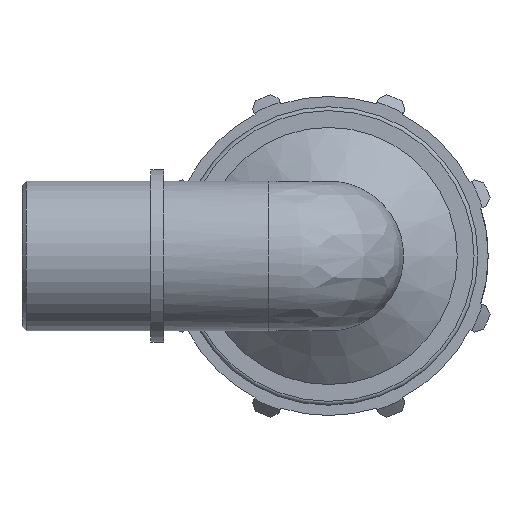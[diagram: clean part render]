
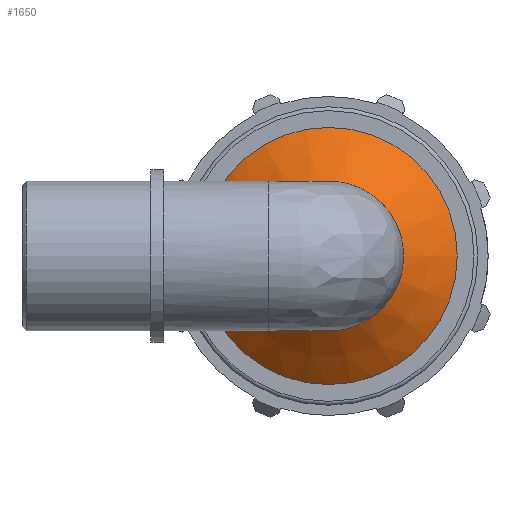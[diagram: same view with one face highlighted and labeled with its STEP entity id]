
A CAD part, left-side view. The second image highlights one B-rep face of the part: STEP entity #1650.
In plain terms, the highlighted conical face has half-angle 50 degrees and reference radius 14.24 mm.
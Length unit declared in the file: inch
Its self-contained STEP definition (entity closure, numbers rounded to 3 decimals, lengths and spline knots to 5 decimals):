
#96=CONICAL_SURFACE('',#1766,0.56063,0.873);
#112=LINE('',#2500,#223);
#223=VECTOR('',#1976,0.56063);
#333=B_SPLINE_CURVE_WITH_KNOTS('',3,(#2448,#2449,#2450,#2451,#2452,#2453,
#2454,#2455),.UNSPECIFIED.,.F.,.F.,(4,2,2,4),(3.95231,3.96982,
4.14407,4.31832),.UNSPECIFIED.);
#334=B_SPLINE_CURVE_WITH_KNOTS('',3,(#2459,#2460,#2461,#2462,#2463,#2464,
#2465,#2466),.UNSPECIFIED.,.F.,.F.,(4,2,2,4),(4.31832,4.49257,
4.66682,4.68434),.UNSPECIFIED.);
#343=FACE_OUTER_BOUND('',#429,.T.);
#429=EDGE_LOOP('',(#1059,#1060,#1061,#1062,#1063,#1064,#1065,#1066));
#522=CIRCLE('',#1753,0.4125);
#524=CIRCLE('',#1757,0.4125);
#531=CIRCLE('',#1767,0.70875);
#532=CIRCLE('',#1768,0.70875);
#622=VERTEX_POINT('',#2428);
#623=VERTEX_POINT('',#2429);
#626=VERTEX_POINT('',#2435);
#630=VERTEX_POINT('',#2447);
#632=VERTEX_POINT('',#2496);
#633=VERTEX_POINT('',#2497);
#792=EDGE_CURVE('',#622,#623,#522,.T.);
#796=EDGE_CURVE('',#623,#626,#524,.T.);
#801=EDGE_CURVE('',#622,#630,#333,.T.);
#804=EDGE_CURVE('',#630,#626,#334,.T.);
#806=EDGE_CURVE('',#632,#633,#531,.T.);
#807=EDGE_CURVE('',#633,#632,#532,.T.);
#808=EDGE_CURVE('',#633,#623,#112,.T.);
#1059=ORIENTED_EDGE('',*,*,#806,.F.);
#1060=ORIENTED_EDGE('',*,*,#807,.F.);
#1061=ORIENTED_EDGE('',*,*,#808,.T.);
#1062=ORIENTED_EDGE('',*,*,#796,.T.);
#1063=ORIENTED_EDGE('',*,*,#804,.F.);
#1064=ORIENTED_EDGE('',*,*,#801,.F.);
#1065=ORIENTED_EDGE('',*,*,#792,.T.);
#1066=ORIENTED_EDGE('',*,*,#808,.F.);
#1650=ADVANCED_FACE('',(#343),#96,.T.);
#1753=AXIS2_PLACEMENT_3D('',#2430,#1943,#1944);
#1757=AXIS2_PLACEMENT_3D('',#2437,#1951,#1952);
#1766=AXIS2_PLACEMENT_3D('',#2495,#1970,#1971);
#1767=AXIS2_PLACEMENT_3D('',#2498,#1972,#1973);
#1768=AXIS2_PLACEMENT_3D('',#2499,#1974,#1975);
#1943=DIRECTION('center_axis',(1.,0.,0.));
#1944=DIRECTION('ref_axis',(0.,0.,-1.));
#1951=DIRECTION('center_axis',(1.,0.,0.));
#1952=DIRECTION('ref_axis',(0.,0.,-1.));
#1970=DIRECTION('center_axis',(1.,0.,0.));
#1971=DIRECTION('ref_axis',(0.,1.,0.));
#1972=DIRECTION('center_axis',(1.,0.,0.));
#1973=DIRECTION('ref_axis',(0.,0.,-1.));
#1974=DIRECTION('center_axis',(1.,0.,0.));
#1975=DIRECTION('ref_axis',(0.,0.,-1.));
#1976=DIRECTION('',(-0.643,0.766,0.));
#2428=CARTESIAN_POINT('',(0.38928,0.38928,0.13644));
#2429=CARTESIAN_POINT('',(0.38928,-0.4125,0.));
#2430=CARTESIAN_POINT('Origin',(0.38928,0.,
0.));
#2435=CARTESIAN_POINT('',(0.38928,0.38928,-0.13644));
#2437=CARTESIAN_POINT('Origin',(0.38928,0.,
0.));
#2447=CARTESIAN_POINT('',(0.4125,0.44017,0.));
#2448=CARTESIAN_POINT('Ctrl Pts',(0.38928,0.38928,0.13644));
#2449=CARTESIAN_POINT('Ctrl Pts',(0.3899,0.39068,0.13467));
#2450=CARTESIAN_POINT('Ctrl Pts',(0.39051,0.39205,0.13291));
#2451=CARTESIAN_POINT('Ctrl Pts',(0.39701,0.40669,0.1135));
#2452=CARTESIAN_POINT('Ctrl Pts',(0.40266,0.41903,0.09244));
#2453=CARTESIAN_POINT('Ctrl Pts',(0.41044,0.43581,0.04715));
#2454=CARTESIAN_POINT('Ctrl Pts',(0.4125,0.44017,0.02287));
#2455=CARTESIAN_POINT('Ctrl Pts',(0.4125,0.44017,0.));
#2459=CARTESIAN_POINT('Ctrl Pts',(0.4125,0.44017,0.));
#2460=CARTESIAN_POINT('Ctrl Pts',(0.4125,0.44017,-0.02287));
#2461=CARTESIAN_POINT('Ctrl Pts',(0.41044,0.43581,-0.04715));
#2462=CARTESIAN_POINT('Ctrl Pts',(0.40266,0.41903,-0.09244));
#2463=CARTESIAN_POINT('Ctrl Pts',(0.39701,0.40669,-0.1135));
#2464=CARTESIAN_POINT('Ctrl Pts',(0.39051,0.39205,-0.13291));
#2465=CARTESIAN_POINT('Ctrl Pts',(0.3899,0.39068,-0.13467));
#2466=CARTESIAN_POINT('Ctrl Pts',(0.38928,0.38928,-0.13644));
#2495=CARTESIAN_POINT('Origin',(0.51358,0.,
0.));
#2496=CARTESIAN_POINT('',(0.63787,0.70875,0.));
#2497=CARTESIAN_POINT('',(0.63787,-0.70875,0.));
#2498=CARTESIAN_POINT('Origin',(0.63787,0.,
0.));
#2499=CARTESIAN_POINT('Origin',(0.63787,0.,
0.));
#2500=CARTESIAN_POINT('',(0.51358,-0.56062,0.));
